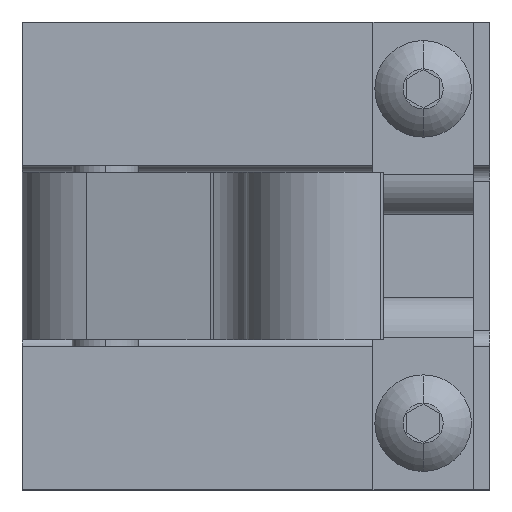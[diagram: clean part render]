
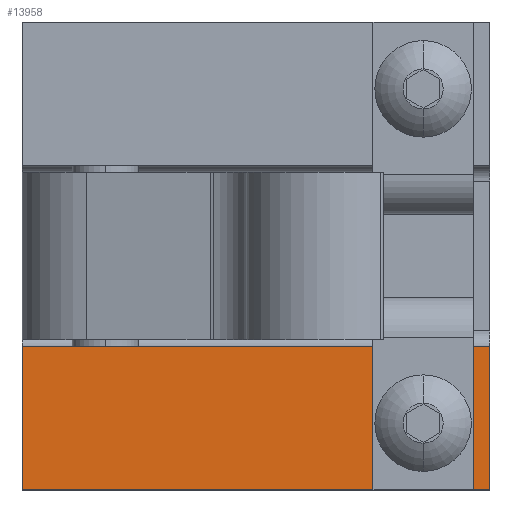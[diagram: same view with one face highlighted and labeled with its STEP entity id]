
A CAD part, left-side view. The second image highlights one B-rep face of the part: STEP entity #13958.
In plain terms, the highlighted planar face has unit normal (-1, 0, 0).
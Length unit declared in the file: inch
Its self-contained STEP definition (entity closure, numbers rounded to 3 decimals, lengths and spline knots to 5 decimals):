
#1483 = VECTOR ( 'NONE', #1547, 39.37008 ) ;
#1484 = CARTESIAN_POINT ( 'NONE',  ( 7.4273, 3.59026, -1.75 ) ) ;
#1489 = LINE ( 'NONE', #1484, #1483 ) ;
#1547 = DIRECTION ( 'NONE',  ( 0., 0., 1. ) ) ;
#1601 = DIRECTION ( 'NONE',  ( 0., 0., 1. ) ) ;
#1602 = DIRECTION ( 'NONE',  ( -1., 0., 0. ) ) ;
#1603 = CARTESIAN_POINT ( 'NONE',  ( 7.4273, 3.59026, -1.75 ) ) ;
#1604 = AXIS2_PLACEMENT_3D ( 'NONE', #1603, #1602, #1601 ) ;
#1605 = PLANE ( 'NONE',  #1604 ) ;
#1606 = FACE_OUTER_BOUND ( 'NONE', #13974, .T. ) ;
#1607 = FACE_BOUND ( 'NONE', #13959, .T. ) ;
#1614 = CIRCLE ( 'NONE', #1640, 0.09375 ) ;
#1620 = DIRECTION ( 'NONE',  ( 0., 0., 1. ) ) ;
#1638 = DIRECTION ( 'NONE',  ( -1., 0., 0. ) ) ;
#1639 = CARTESIAN_POINT ( 'NONE',  ( 7.4273, 3.84026, -1.5 ) ) ;
#1640 = AXIS2_PLACEMENT_3D ( 'NONE', #1639, #1638, #1620 ) ;
#1647 = LINE ( 'NONE', #1691, #1690 ) ;
#1689 = DIRECTION ( 'NONE',  ( 0., -1., 0. ) ) ;
#1690 = VECTOR ( 'NONE', #1689, 39.37008 ) ;
#1691 = CARTESIAN_POINT ( 'NONE',  ( 7.4273, 3.59026, -1.215 ) ) ;
#1707 = CARTESIAN_POINT ( 'NONE',  ( 7.4273, 3.59026, -1.75 ) ) ;
#1708 = DIRECTION ( 'NONE',  ( 0., -1., 0. ) ) ;
#1709 = VECTOR ( 'NONE', #1708, 39.37008 ) ;
#1762 = CARTESIAN_POINT ( 'NONE',  ( 7.4273, 3.59026, -1.75 ) ) ;
#1763 = LINE ( 'NONE', #1762, #1709 ) ;
#1764 = CARTESIAN_POINT ( 'NONE',  ( 7.4273, 3.59026, -1.215 ) ) ;
#12508 = VERTEX_POINT ( 'NONE', #21055 ) ;
#12670 = VERTEX_POINT ( 'NONE', #21160 ) ;
#12671 = EDGE_CURVE ( 'NONE', #12670, #12672, #21159, .T. ) ;
#12672 = VERTEX_POINT ( 'NONE', #21172 ) ;
#12834 = EDGE_CURVE ( 'NONE', #12849, #12508, #21480, .T. ) ;
#12849 = VERTEX_POINT ( 'NONE', #21564 ) ;
#13899 = ORIENTED_EDGE ( 'NONE', *, *, #13901, .T. ) ;
#13901 = EDGE_CURVE ( 'NONE', #13994, #13990, #1489, .T. ) ;
#13958 = ADVANCED_FACE ( 'NONE', ( #1607, #1606 ), #1605, .T. ) ;
#13959 = EDGE_LOOP ( 'NONE', ( #13969, #13972 ) ) ;
#13969 = ORIENTED_EDGE ( 'NONE', *, *, #13971, .F. ) ;
#13971 = EDGE_CURVE ( 'NONE', #12672, #12670, #1614, .T. ) ;
#13972 = ORIENTED_EDGE ( 'NONE', *, *, #12671, .F. ) ;
#13974 = EDGE_LOOP ( 'NONE', ( #13976, #13991, #13992, #13899 ) ) ;
#13976 = ORIENTED_EDGE ( 'NONE', *, *, #13989, .F. ) ;
#13989 = EDGE_CURVE ( 'NONE', #12508, #13990, #1647, .T. ) ;
#13990 = VERTEX_POINT ( 'NONE', #1764 ) ;
#13991 = ORIENTED_EDGE ( 'NONE', *, *, #12834, .F. ) ;
#13992 = ORIENTED_EDGE ( 'NONE', *, *, #13993, .T. ) ;
#13993 = EDGE_CURVE ( 'NONE', #12849, #13994, #1763, .T. ) ;
#13994 = VERTEX_POINT ( 'NONE', #1707 ) ;
#21055 = CARTESIAN_POINT ( 'NONE',  ( 7.4273, 5.34026, -1.215 ) ) ;
#21155 = DIRECTION ( 'NONE',  ( 0., 0., 1. ) ) ;
#21156 = DIRECTION ( 'NONE',  ( -1., 0., 0. ) ) ;
#21157 = CARTESIAN_POINT ( 'NONE',  ( 7.4273, 3.84026, -1.5 ) ) ;
#21158 = AXIS2_PLACEMENT_3D ( 'NONE', #21157, #21156, #21155 ) ;
#21159 = CIRCLE ( 'NONE', #21158, 0.09375 ) ;
#21160 = CARTESIAN_POINT ( 'NONE',  ( 7.4273, 3.84026, -1.59375 ) ) ;
#21172 = CARTESIAN_POINT ( 'NONE',  ( 7.4273, 3.84026, -1.40625 ) ) ;
#21478 = VECTOR ( 'NONE', #21519, 39.37008 ) ;
#21479 = CARTESIAN_POINT ( 'NONE',  ( 7.4273, 5.34026, -1.75 ) ) ;
#21480 = LINE ( 'NONE', #21479, #21478 ) ;
#21519 = DIRECTION ( 'NONE',  ( 0., 0., 1. ) ) ;
#21564 = CARTESIAN_POINT ( 'NONE',  ( 7.4273, 5.34026, -1.75 ) ) ;
